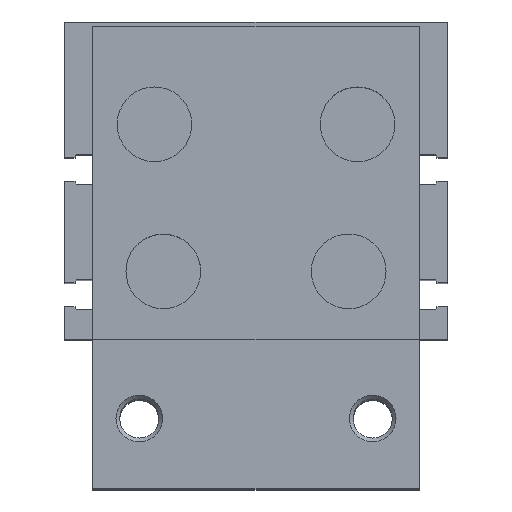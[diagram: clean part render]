
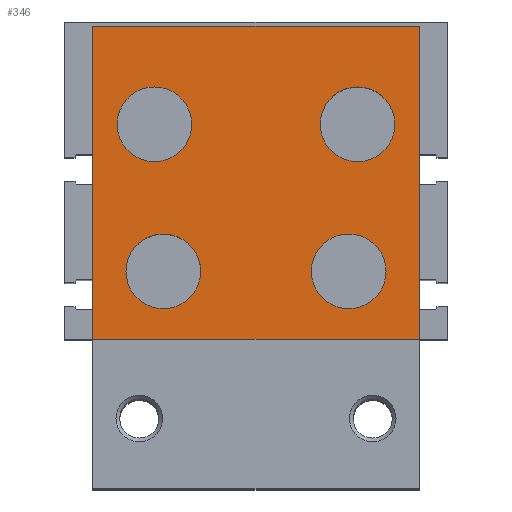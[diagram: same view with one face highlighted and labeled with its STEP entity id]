
A CAD part, top view. The second image highlights one B-rep face of the part: STEP entity #346.
In plain terms, the highlighted planar face has unit normal (0, 0, 1).
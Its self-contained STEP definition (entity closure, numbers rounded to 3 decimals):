
#346 = ADVANCED_FACE( '', ( #741, #742, #743, #744, #745 ), #746, .F. );
#741 = FACE_BOUND( '', #1157, .T. );
#742 = FACE_BOUND( '', #1158, .T. );
#743 = FACE_OUTER_BOUND( '', #1159, .T. );
#744 = FACE_BOUND( '', #1160, .T. );
#745 = FACE_BOUND( '', #1161, .T. );
#746 = PLANE( '', #1162 );
#1157 = EDGE_LOOP( '', ( #1953 ) );
#1158 = EDGE_LOOP( '', ( #1954 ) );
#1159 = EDGE_LOOP( '', ( #1955, #1956, #1957, #1958 ) );
#1160 = EDGE_LOOP( '', ( #1959 ) );
#1161 = EDGE_LOOP( '', ( #1960 ) );
#1162 = AXIS2_PLACEMENT_3D( '', #1961, #1962, #1963 );
#1953 = ORIENTED_EDGE( '', *, *, #2457, .F. );
#1954 = ORIENTED_EDGE( '', *, *, #2450, .F. );
#1955 = ORIENTED_EDGE( '', *, *, #2373, .T. );
#1956 = ORIENTED_EDGE( '', *, *, #2430, .F. );
#1957 = ORIENTED_EDGE( '', *, *, #2460, .F. );
#1958 = ORIENTED_EDGE( '', *, *, #2424, .T. );
#1959 = ORIENTED_EDGE( '', *, *, #2360, .F. );
#1960 = ORIENTED_EDGE( '', *, *, #2162, .F. );
#1961 = CARTESIAN_POINT( '', ( 70., 67., 0. ) );
#1962 = DIRECTION( '', ( 0., 0., -1. ) );
#1963 = DIRECTION( '', ( -1., 0., 0. ) );
#2162 = EDGE_CURVE( '', #2508, #2508, #2509, .F. );
#2360 = EDGE_CURVE( '', #2830, #2830, #2831, .T. );
#2373 = EDGE_CURVE( '', #2843, #2849, #2851, .T. );
#2424 = EDGE_CURVE( '', #2921, #2843, #2922, .T. );
#2430 = EDGE_CURVE( '', #2928, #2849, #2930, .T. );
#2450 = EDGE_CURVE( '', #2950, #2950, #2951, .T. );
#2457 = EDGE_CURVE( '', #2957, #2957, #2958, .F. );
#2460 = EDGE_CURVE( '', #2921, #2928, #2961, .T. );
#2508 = VERTEX_POINT( '', #3017 );
#2509 = CIRCLE( '', #3018, 8. );
#2830 = VERTEX_POINT( '', #3564 );
#2831 = CIRCLE( '', #3565, 8. );
#2843 = VERTEX_POINT( '', #3580 );
#2849 = VERTEX_POINT( '', #3589 );
#2851 = LINE( '', #3592, #3593 );
#2921 = VERTEX_POINT( '', #3686 );
#2922 = LINE( '', #3687, #3688 );
#2928 = VERTEX_POINT( '', #3696 );
#2930 = LINE( '', #3699, #3700 );
#2950 = VERTEX_POINT( '', #3725 );
#2951 = CIRCLE( '', #3726, 8. );
#2957 = VERTEX_POINT( '', #3733 );
#2958 = CIRCLE( '', #3734, 8. );
#2961 = LINE( '', #3737, #3738 );
#3017 = CARTESIAN_POINT( '', ( 5.245, 46., 0. ) );
#3018 = AXIS2_PLACEMENT_3D( '', #3787, #3788, #3789 );
#3564 = CARTESIAN_POINT( '', ( 64.755, 46., 0. ) );
#3565 = AXIS2_PLACEMENT_3D( '', #4026, #4027, #4028 );
#3580 = CARTESIAN_POINT( '', ( 0., 67., 0. ) );
#3589 = CARTESIAN_POINT( '', ( 0., 0., 0. ) );
#3592 = CARTESIAN_POINT( '', ( 0., 67., 0. ) );
#3593 = VECTOR( '', #4039, 1000. );
#3686 = CARTESIAN_POINT( '', ( 70., 67., 0. ) );
#3687 = CARTESIAN_POINT( '', ( 70., 67., 0. ) );
#3688 = VECTOR( '', #4102, 1000. );
#3696 = CARTESIAN_POINT( '', ( 70., 0., 0. ) );
#3699 = CARTESIAN_POINT( '', ( 70., 0., 0. ) );
#3700 = VECTOR( '', #4106, 1000. );
#3725 = CARTESIAN_POINT( '', ( 23.135, 14.5, 0. ) );
#3726 = AXIS2_PLACEMENT_3D( '', #4115, #4116, #4117 );
#3733 = CARTESIAN_POINT( '', ( 46.865, 14.5, 0. ) );
#3734 = AXIS2_PLACEMENT_3D( '', #4119, #4120, #4121 );
#3737 = CARTESIAN_POINT( '', ( 70., 67., 0. ) );
#3738 = VECTOR( '', #4122, 1000. );
#3787 = CARTESIAN_POINT( '', ( 13.245, 46., 0. ) );
#3788 = DIRECTION( '', ( 0., 0., -1. ) );
#3789 = DIRECTION( '', ( -1., 0., 0. ) );
#4026 = CARTESIAN_POINT( '', ( 56.755, 46., 0. ) );
#4027 = DIRECTION( '', ( 0., 0., 1. ) );
#4028 = DIRECTION( '', ( 1., 0., 0. ) );
#4039 = DIRECTION( '', ( 0., -1., 0. ) );
#4102 = DIRECTION( '', ( -1., 0., 0. ) );
#4106 = DIRECTION( '', ( -1., 0., 0. ) );
#4115 = CARTESIAN_POINT( '', ( 15.135, 14.5, 0. ) );
#4116 = DIRECTION( '', ( 0., 0., 1. ) );
#4117 = DIRECTION( '', ( 1., 0., 0. ) );
#4119 = CARTESIAN_POINT( '', ( 54.865, 14.5, 0. ) );
#4120 = DIRECTION( '', ( 0., 0., -1. ) );
#4121 = DIRECTION( '', ( -1., 0., 0. ) );
#4122 = DIRECTION( '', ( 0., -1., 0. ) );
